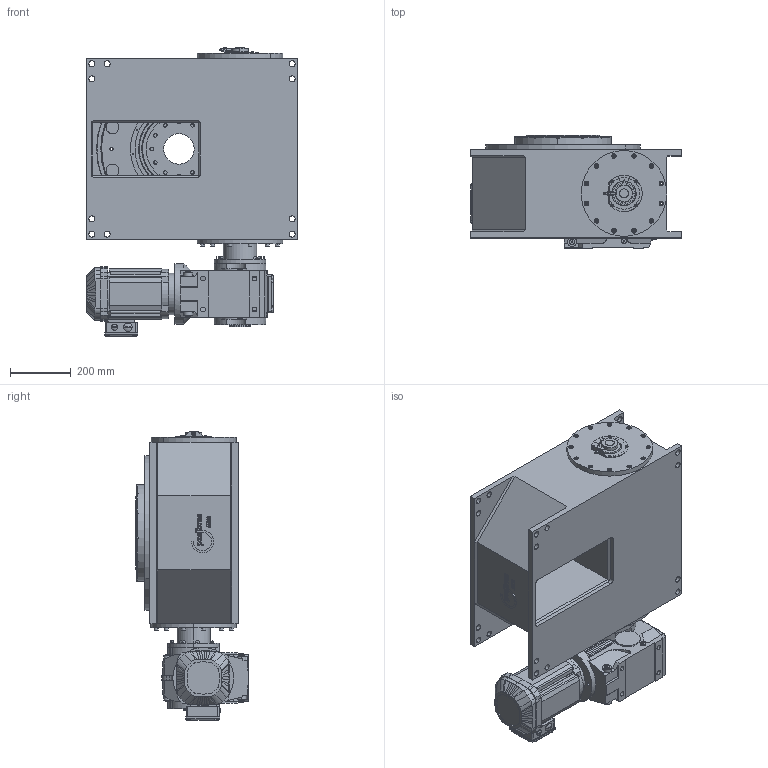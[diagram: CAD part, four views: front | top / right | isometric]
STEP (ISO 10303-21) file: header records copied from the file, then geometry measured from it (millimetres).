
FILE_DESCRIPTION (( 'STEP AP214' ), '1' );
FILE_NAME ('M510_SEW_KA77DRE90S4_E1_10.STEP', '2020-06-17T12:43:39', ( '' ), ( '' ), 'SwSTEP 2.0', 'SolidWorks 2020', '' );
FILE_SCHEMA (( 'AUTOMOTIVE_DESIGN' ));
Length unit declared in the file: millimetre
Products named in the file (1): M510_SEW_KA77DRE90S4_E1_10
Bounding box: 695 x 371.25 x 951.47 mm (x, y, z)
Surface area: 2830476.9 mm2 (no closed solid volume)
Topology: 0 solids, 117 shells, 1632 faces, 5215 edges, 3631 vertices
Faces by surface type: plane 785, cylinder 529, torus 110, cone 103, bspline 93, sphere 12
Entity records: 82316 total; most frequent: CARTESIAN_POINT 18552, DIRECTION 9606, ORIENTED_EDGE 8625, EDGE_CURVE 5191, VERTEX_POINT 3631, AXIS2_PLACEMENT_3D 3372, LINE 2862, VECTOR 2862
